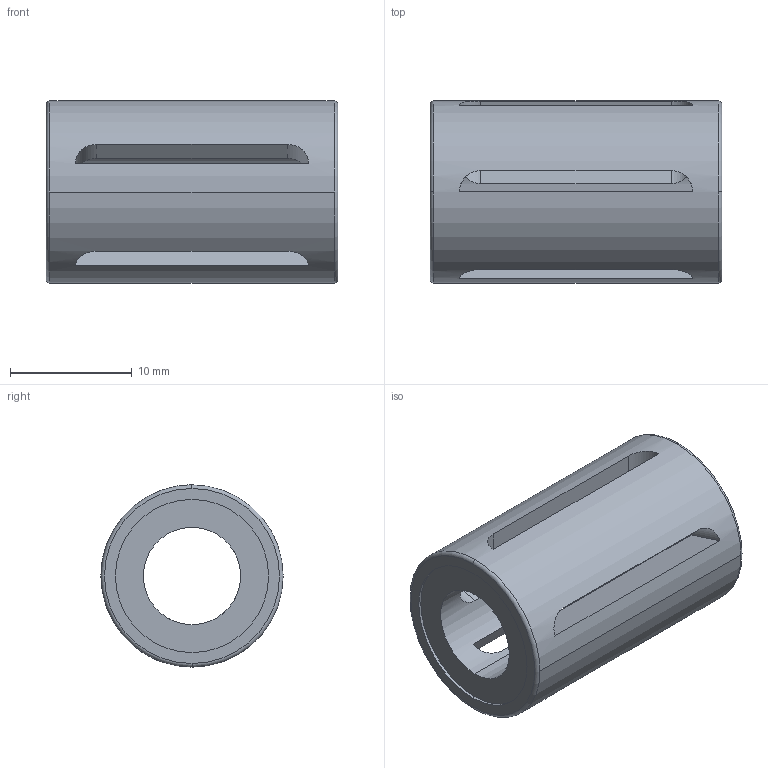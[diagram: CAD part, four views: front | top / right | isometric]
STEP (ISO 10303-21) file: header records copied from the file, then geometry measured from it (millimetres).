
FILE_DESCRIPTION(('FreeCAD Model'),'2;1');
FILE_NAME('Open CASCADE Shape Model','2021-05-03T13:00:59',('Author'),( ''),'Open CASCADE STEP processor 7.5','FreeCAD','Unknown');
FILE_SCHEMA(('AUTOMOTIVE_DESIGN { 1 0 10303 214 1 1 1 1 }'));
Length unit declared in the file: millimetre
Products named in the file (1): ball_bearing_kh0824pp
Bounding box: 24 x 15 x 15 mm (x, y, z)
Volume: 2422.5 mm3; surface area: 2377 mm2
Topology: 1 solids, 1 shells, 36 faces, 99 edges, 66 vertices
Faces by surface type: cylinder 18, plane 14, torus 4
Entity records: 5139 total; most frequent: CARTESIAN_POINT 2978, DIRECTION 326, ORIENTED_EDGE 198, PCURVE 198, DEFINITIONAL_REPRESENTATION 198, LINE 189, VECTOR 189, EDGE_CURVE 99
